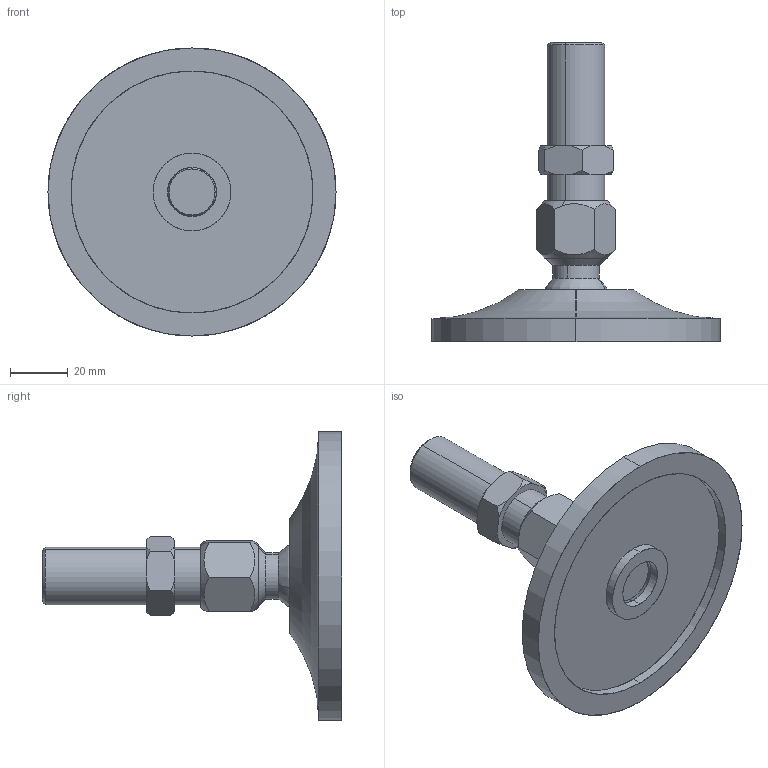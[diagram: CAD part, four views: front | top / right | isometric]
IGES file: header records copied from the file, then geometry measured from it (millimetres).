
Start section: SolidWorks IGES file using analytic representation for surfaces
Global section: file name: C:\Documents and Settings\URETIM3\Desktop\yeni katalog tolgay düzenli\A kataloðu\pabuc,saplama montajlarý\507-560 ÇELÝK PASLANMAZ TABANLI VE MÝLLÝ MAFSALLI PABUÇ MONTAJLARI\... 102 010.IGS; native system: SolidWorks 2006 by SolidWorks Corporation; preprocessor: SolidWorks 2006 by SolidWorks Corporation; author: URETIM3; date: 060911.172955; units: millimetre
Bounding box: 100 x 104 x 100 mm (x, y, z)
Surface area: 28986.5 mm2 (no closed solid volume)
Topology: 0 solids, 0 shells, 61 faces, 1084 edges, 1084 vertices
Faces by surface type: revolution 36, bspline 25
